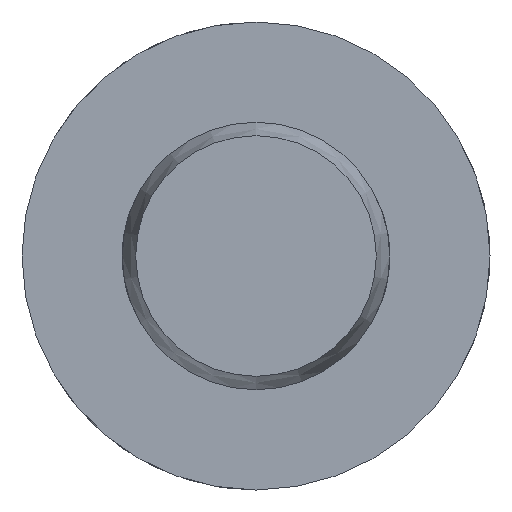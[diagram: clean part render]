
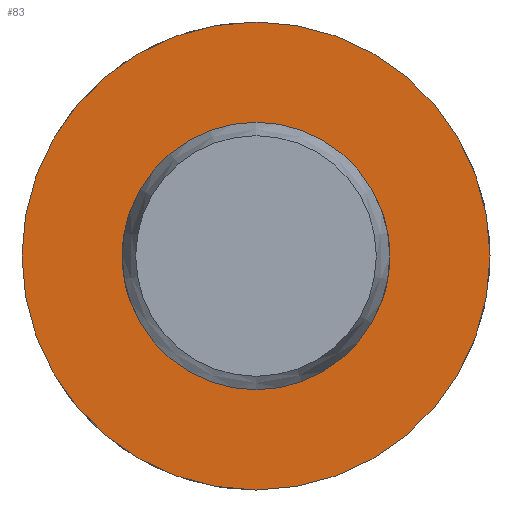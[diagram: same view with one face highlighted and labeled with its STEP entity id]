
A CAD part, left-side view. The second image highlights one B-rep face of the part: STEP entity #83.
In plain terms, the highlighted planar face has unit normal (-1, 0, 0).
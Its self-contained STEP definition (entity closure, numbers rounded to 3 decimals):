
#83 = ADVANCED_FACE( '', ( #128, #129 ), #130, .F. );
#128 = FACE_OUTER_BOUND( '', #204, .T. );
#129 = FACE_BOUND( '', #205, .T. );
#130 = PLANE( '', #206 );
#204 = EDGE_LOOP( '', ( #318 ) );
#205 = EDGE_LOOP( '', ( #319 ) );
#206 = AXIS2_PLACEMENT_3D( '', #320, #321, #322 );
#318 = ORIENTED_EDGE( '', *, *, #481, .F. );
#319 = ORIENTED_EDGE( '', *, *, #471, .T. );
#320 = CARTESIAN_POINT( '', ( 53.2, 4., 0. ) );
#321 = DIRECTION( '', ( 1., 0., 0. ) );
#322 = DIRECTION( '', ( 0., 0., -1. ) );
#471 = EDGE_CURVE( '', #541, #541, #542, .T. );
#481 = EDGE_CURVE( '', #559, #559, #560, .T. );
#541 = VERTEX_POINT( '', #726 );
#542 = CIRCLE( '', #727, 4. );
#559 = VERTEX_POINT( '', #861 );
#560 = CIRCLE( '', #862, 7. );
#726 = CARTESIAN_POINT( '', ( 53.2, 0., -4. ) );
#727 = AXIS2_PLACEMENT_3D( '', #923, #924, #925 );
#861 = CARTESIAN_POINT( '', ( 53.2, 0., -7. ) );
#862 = AXIS2_PLACEMENT_3D( '', #944, #945, #946 );
#923 = CARTESIAN_POINT( '', ( 53.2, 0., 0. ) );
#924 = DIRECTION( '', ( 1., 0., 0. ) );
#925 = DIRECTION( '', ( 0., 0., -1. ) );
#944 = CARTESIAN_POINT( '', ( 53.2, 0., 0. ) );
#945 = DIRECTION( '', ( 1., 0., 0. ) );
#946 = DIRECTION( '', ( 0., 0., -1. ) );
